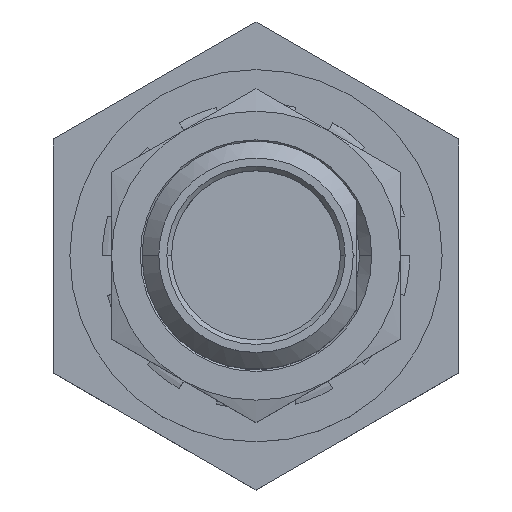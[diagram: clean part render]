
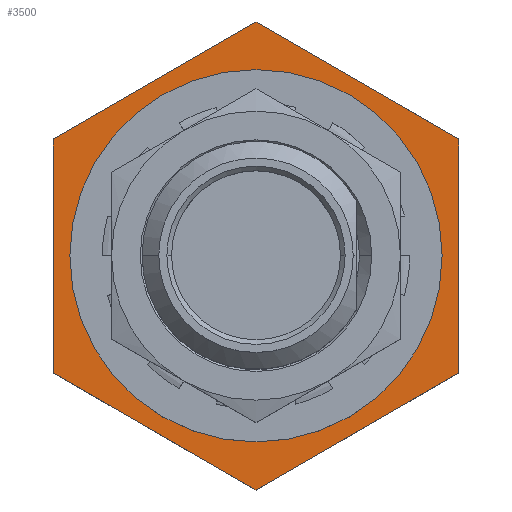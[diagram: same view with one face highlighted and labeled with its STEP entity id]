
A CAD part, top view. The second image highlights one B-rep face of the part: STEP entity #3500.
In plain terms, the highlighted planar face has unit normal (0, 0, 1).
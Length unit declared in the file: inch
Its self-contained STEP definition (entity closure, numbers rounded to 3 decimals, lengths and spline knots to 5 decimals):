
#6 = EDGE_LOOP ( 'NONE', ( #2536, #3925, #3931, #4617, #3858, #6538 ) ) ;
#27 = VECTOR ( 'NONE', #1688, 39.37008 ) ;
#196 = VECTOR ( 'NONE', #4807, 39.37008 ) ;
#286 = VERTEX_POINT ( 'NONE', #5204 ) ;
#530 = DIRECTION ( 'NONE',  ( 0.866, 0.5, 0. ) ) ;
#568 = VERTEX_POINT ( 'NONE', #3653 ) ;
#694 = AXIS2_PLACEMENT_3D ( 'NONE', #1402, #5061, #1937 ) ;
#741 = DIRECTION ( 'NONE',  ( -1., 0., 0. ) ) ;
#832 = CARTESIAN_POINT ( 'NONE',  ( 0.21875, -0.1263, -0.415 ) ) ;
#857 = VERTEX_POINT ( 'NONE', #4338 ) ;
#897 = ORIENTED_EDGE ( 'NONE', *, *, #2045, .F. ) ;
#1125 = CARTESIAN_POINT ( 'NONE',  ( 0.21875, 0.1263, -0.415 ) ) ;
#1298 = LINE ( 'NONE', #1667, #27 ) ;
#1402 = CARTESIAN_POINT ( 'NONE',  ( 0., 0., -0.415 ) ) ;
#1472 = VECTOR ( 'NONE', #530, 39.37008 ) ;
#1541 = CARTESIAN_POINT ( 'NONE',  ( 0., 0.25259, -0.415 ) ) ;
#1580 = ORIENTED_EDGE ( 'NONE', *, *, #6718, .F. ) ;
#1595 = DIRECTION ( 'NONE',  ( 0.866, -0.5, 0. ) ) ;
#1667 = CARTESIAN_POINT ( 'NONE',  ( -0.21875, 0.1263, -0.415 ) ) ;
#1688 = DIRECTION ( 'NONE',  ( 0., -1., 0. ) ) ;
#1930 = CARTESIAN_POINT ( 'NONE',  ( 0., 0.198, -0.415 ) ) ;
#1937 = DIRECTION ( 'NONE',  ( 1., 0., 0. ) ) ;
#2005 = FACE_BOUND ( 'NONE', #5825, .T. ) ;
#2022 = VERTEX_POINT ( 'NONE', #6137 ) ;
#2045 = EDGE_CURVE ( 'NONE', #568, #4650, #3982, .T. ) ;
#2093 = DIRECTION ( 'NONE',  ( -0.866, -0.5, 0. ) ) ;
#2163 = CARTESIAN_POINT ( 'NONE',  ( 0.198, 0., -0.415 ) ) ;
#2298 = PLANE ( 'NONE',  #2653 ) ;
#2491 = VERTEX_POINT ( 'NONE', #1541 ) ;
#2492 = CARTESIAN_POINT ( 'NONE',  ( 0., 0., -0.415 ) ) ;
#2536 = ORIENTED_EDGE ( 'NONE', *, *, #6007, .T. ) ;
#2617 = CARTESIAN_POINT ( 'NONE',  ( -0.21875, -0.1263, -0.415 ) ) ;
#2653 = AXIS2_PLACEMENT_3D ( 'NONE', #1930, #3851, #741 ) ;
#2835 = CARTESIAN_POINT ( 'NONE',  ( 0.21875, 0.1263, -0.415 ) ) ;
#3018 = LINE ( 'NONE', #4119, #1472 ) ;
#3037 = DIRECTION ( 'NONE',  ( 1., 0., 0. ) ) ;
#3254 = VECTOR ( 'NONE', #5960, 39.37008 ) ;
#3420 = VERTEX_POINT ( 'NONE', #1125 ) ;
#3423 = LINE ( 'NONE', #2835, #3254 ) ;
#3500 = ADVANCED_FACE ( 'NONE', ( #2005, #3542 ), #2298, .F. ) ;
#3542 = FACE_OUTER_BOUND ( 'NONE', #6, .T. ) ;
#3653 = CARTESIAN_POINT ( 'NONE',  ( -0.198, 0., -0.415 ) ) ;
#3654 = CARTESIAN_POINT ( 'NONE',  ( 0., 0.25259, -0.415 ) ) ;
#3735 = VECTOR ( 'NONE', #1595, 39.37008 ) ;
#3851 = DIRECTION ( 'NONE',  ( 0., 0., -1. ) ) ;
#3858 = ORIENTED_EDGE ( 'NONE', *, *, #6292, .T. ) ;
#3925 = ORIENTED_EDGE ( 'NONE', *, *, #5198, .T. ) ;
#3931 = ORIENTED_EDGE ( 'NONE', *, *, #4706, .T. ) ;
#3982 = CIRCLE ( 'NONE', #5902, 0.198 ) ;
#4074 = VERTEX_POINT ( 'NONE', #832 ) ;
#4119 = CARTESIAN_POINT ( 'NONE',  ( 0., -0.25259, -0.415 ) ) ;
#4220 = LINE ( 'NONE', #3654, #5457 ) ;
#4282 = CARTESIAN_POINT ( 'NONE',  ( 0.21875, -0.1263, -0.415 ) ) ;
#4334 = LINE ( 'NONE', #4282, #196 ) ;
#4338 = CARTESIAN_POINT ( 'NONE',  ( -0.21875, 0.1263, -0.415 ) ) ;
#4617 = ORIENTED_EDGE ( 'NONE', *, *, #6412, .T. ) ;
#4650 = VERTEX_POINT ( 'NONE', #2163 ) ;
#4706 = EDGE_CURVE ( 'NONE', #857, #2022, #1298, .T. ) ;
#4807 = DIRECTION ( 'NONE',  ( 0., 1., 0. ) ) ;
#5061 = DIRECTION ( 'NONE',  ( 0., 0., 1. ) ) ;
#5198 = EDGE_CURVE ( 'NONE', #2491, #857, #4220, .T. ) ;
#5204 = CARTESIAN_POINT ( 'NONE',  ( 0., -0.25259, -0.415 ) ) ;
#5457 = VECTOR ( 'NONE', #2093, 39.37008 ) ;
#5817 = EDGE_CURVE ( 'NONE', #4074, #3420, #4334, .T. ) ;
#5825 = EDGE_LOOP ( 'NONE', ( #1580, #897 ) ) ;
#5902 = AXIS2_PLACEMENT_3D ( 'NONE', #2492, #6166, #3037 ) ;
#5960 = DIRECTION ( 'NONE',  ( -0.866, 0.5, 0. ) ) ;
#6007 = EDGE_CURVE ( 'NONE', #3420, #2491, #3423, .T. ) ;
#6137 = CARTESIAN_POINT ( 'NONE',  ( -0.21875, -0.1263, -0.415 ) ) ;
#6166 = DIRECTION ( 'NONE',  ( 0., 0., 1. ) ) ;
#6292 = EDGE_CURVE ( 'NONE', #286, #4074, #3018, .T. ) ;
#6412 = EDGE_CURVE ( 'NONE', #2022, #286, #6666, .T. ) ;
#6486 = CIRCLE ( 'NONE', #694, 0.198 ) ;
#6538 = ORIENTED_EDGE ( 'NONE', *, *, #5817, .T. ) ;
#6666 = LINE ( 'NONE', #2617, #3735 ) ;
#6718 = EDGE_CURVE ( 'NONE', #4650, #568, #6486, .T. ) ;
